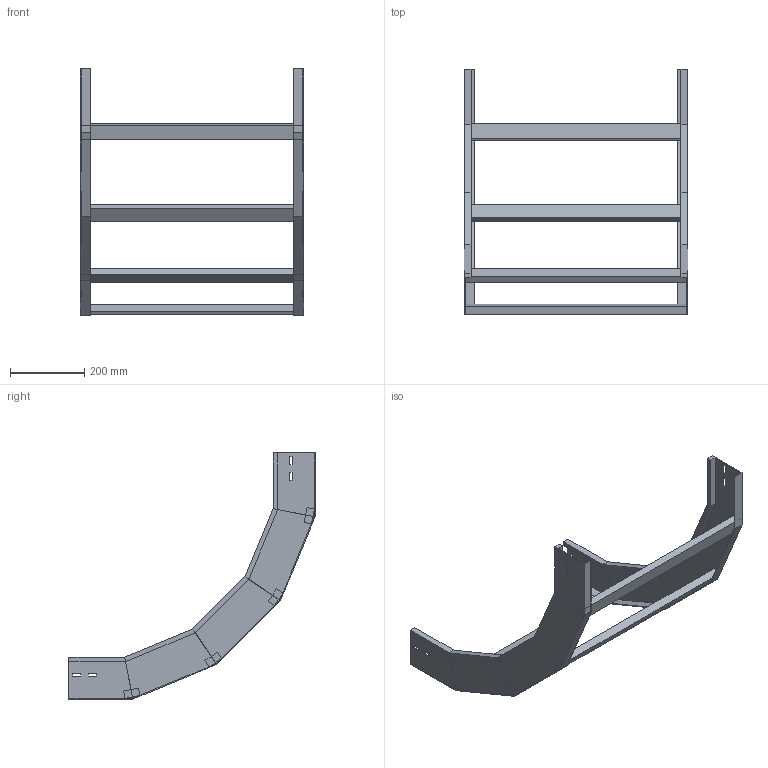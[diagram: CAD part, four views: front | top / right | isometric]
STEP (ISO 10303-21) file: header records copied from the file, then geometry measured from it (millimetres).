
FILE_DESCRIPTION (( 'STEP AP214' ), '1' );
FILE_NAME ('B2X30B5J600XX.step', '2025-03-20T10:23:29', ( '' ), ( '' ), 'SwSTEP 2.0', 'SolidWorks 2023', '' );
FILE_SCHEMA (( 'AUTOMOTIVE_DESIGN' ));
Length unit declared in the file: millimetre
Products named in the file (3): TRAVERSINO_600; LONGH.SALITA_90°_H112.5_R500; B2X30B5J600XX
Assembly tree (6 placements, depth 2):
  B2X30B5J600XX
    LONGH.SALITA_90°_H112.5_R500  x2
    TRAVERSINO_600  x4
Bounding box: 600 x 661.62 x 661.62 mm (x, y, z)
Volume: 2825708.4 mm3; surface area: 910991.7 mm2
Topology: 6 solids, 6 shells, 140 faces, 320 edges, 192 vertices
Faces by surface type: plane 140
Entity records: 1872 total; most frequent: CARTESIAN_POINT 309, ORIENTED_EDGE 296, DIRECTION 294, LINE 148, EDGE_CURVE 148, VECTOR 148, VERTEX_POINT 88, AXIS2_PLACEMENT_3D 73
